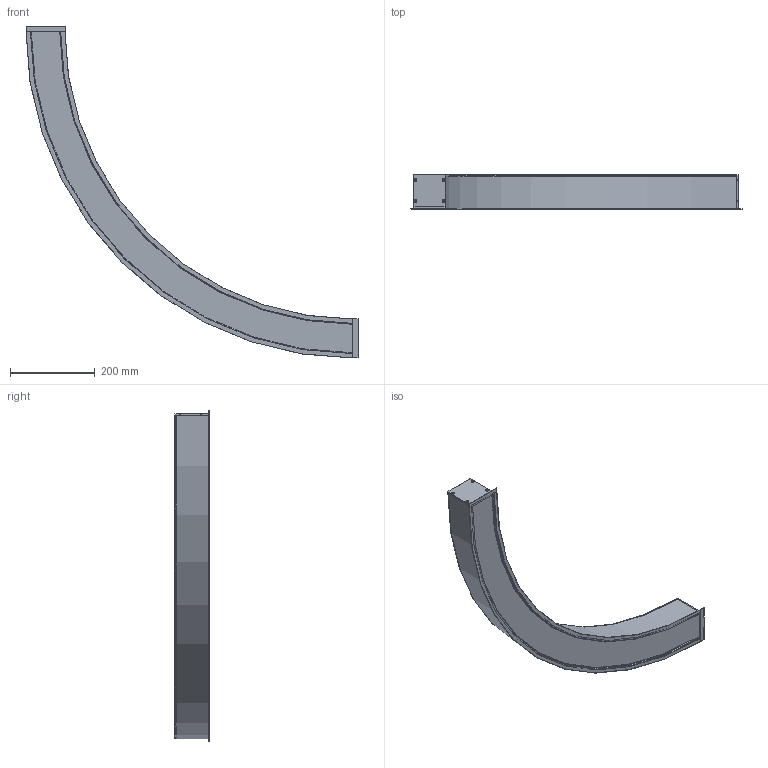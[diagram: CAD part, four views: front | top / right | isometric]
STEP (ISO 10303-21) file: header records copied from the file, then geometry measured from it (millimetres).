
FILE_DESCRIPTION (( 'STEP AP214' ), '1' );
FILE_NAME ('Swerve recessed R725 90Deg.STEP', '2019-04-02T23:07:16', ( 'admin' ), ( 'Hewlett-Packard Company' ), 'SwSTEP 2.0', 'SolidWorks 2017', '' );
FILE_SCHEMA (( 'AUTOMOTIVE_DESIGN' ));
Length unit declared in the file: millimetre
Products named in the file (3): Swerve recessed R725 90Deg; Swerve recessed 3D solid model_R725 90Deg; Swerve recessed endcap
Assembly tree (3 placements, depth 2):
  Swerve recessed R725 90Deg
    Swerve recessed 3D solid model_R725 90Deg
    Swerve recessed endcap  x2
Bounding box: 783 x 81.51 x 783 mm (x, y, z)
Volume: 6704856.7 mm3; surface area: 443012 mm2
Topology: 3 solids, 3 shells, 101 faces, 269 edges, 174 vertices
Faces by surface type: cone 31, plane 27, cylinder 24, torus 19
Entity records: 2367 total; most frequent: DIRECTION 442, CARTESIAN_POINT 384, ORIENTED_EDGE 374, EDGE_CURVE 187, AXIS2_PLACEMENT_3D 180, VERTEX_POINT 122, CIRCLE 105, LINE 82
